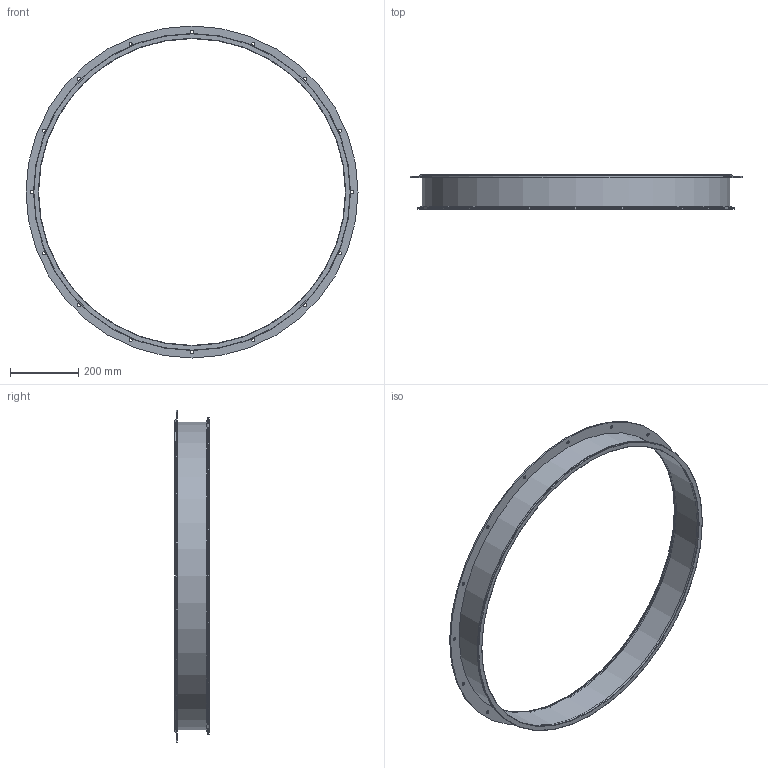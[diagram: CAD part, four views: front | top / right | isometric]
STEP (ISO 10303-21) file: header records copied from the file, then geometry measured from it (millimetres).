
FILE_DESCRIPTION(/* description */ (''),/* implementation_level */ '2;1');
FILE_NAME(/* name */ 'METU_EA116-41D_900_L100.stp',/* time_stamp */ '2018-10-10T16:37:44+02:00',/* author */ (''),/* organization */ (''),/* preprocessor_version */ 'ST-DEVELOPER v11',/* originating_system */ 'SIEMENS UGS NX 6.0',/* authorisation */ '');
FILE_SCHEMA (('CONFIG_CONTROL_DESIGN'));
Length unit declared in the file: millimetre
Products named in the file (1): garsCF17debh
Bounding box: 974 x 101.5 x 974 mm (x, y, z)
Volume: 1043108 mm3; surface area: 992861 mm2
Topology: 3 solids, 3 shells, 40 faces, 109 edges, 78 vertices
Faces by surface type: cylinder 25, plane 9, torus 5, cone 1
Full cylindrical faces by diameter (mm): 9.5 x16, 900 x2, 902 x1, 902.4 x1, 904 x1, 912 x1, 912.4 x1, 930 x1, 974 x1
Entity records: 1122 total; most frequent: DIRECTION 194, CARTESIAN_POINT 153, FACE_BOUND 112, EDGE_LOOP 112, ORIENTED_EDGE 112, AXIS2_PLACEMENT_3D 97, VERTEX_POINT 56, EDGE_CURVE 56
